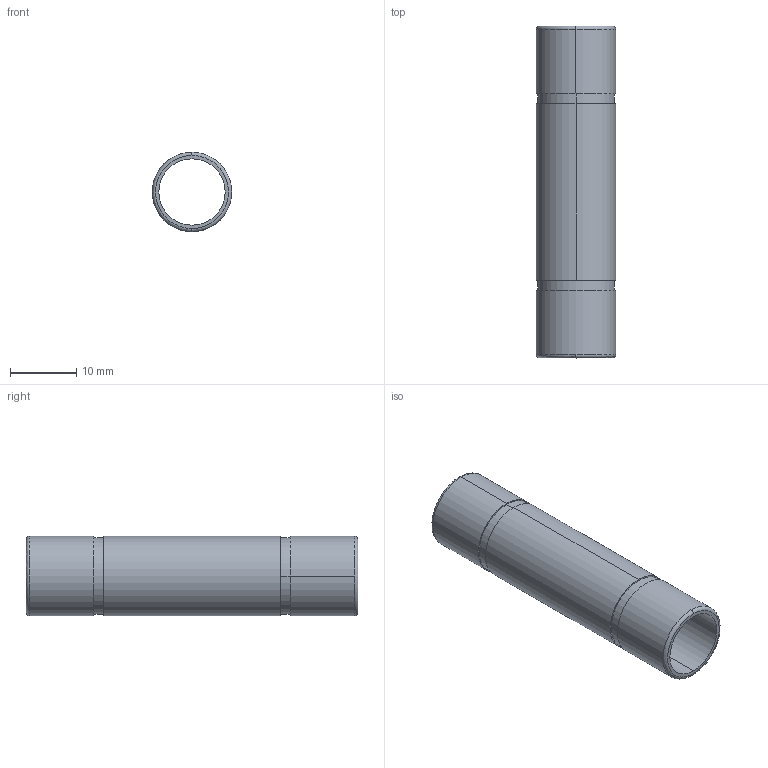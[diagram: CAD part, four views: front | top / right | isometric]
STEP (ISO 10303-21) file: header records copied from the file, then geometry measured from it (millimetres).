
FILE_DESCRIPTION (( 'STEP AP214' ), '1' );
FILE_NAME ('506250001Y100A.STEP', '2016-09-05T14:29:04', ( '' ), ( '' ), 'SwSTEP 2.0', 'SolidWorks 2016', '' );
FILE_SCHEMA (( 'AUTOMOTIVE_DESIGN' ));
Length unit declared in the file: millimetre
Products named in the file (2): 506250001Y100A
Bounding box: 12 x 50 x 12 mm (x, y, z)
Volume: 1701.5 mm3; surface area: 3534.3 mm2
Topology: 1 solids, 1 shells, 22 faces, 46 edges, 30 vertices
Faces by surface type: cylinder 12, plane 6, bspline 4
Entity records: 1113 total; most frequent: CARTESIAN_POINT 596, DIRECTION 104, ORIENTED_EDGE 92, AXIS2_PLACEMENT_3D 46, EDGE_CURVE 46, VERTEX_POINT 30, EDGE_LOOP 28, CIRCLE 26
